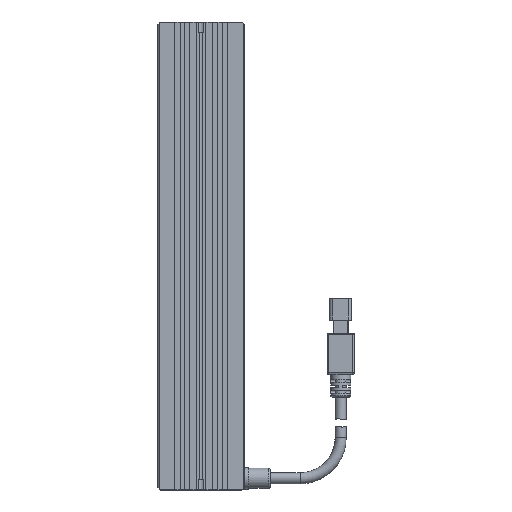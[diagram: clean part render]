
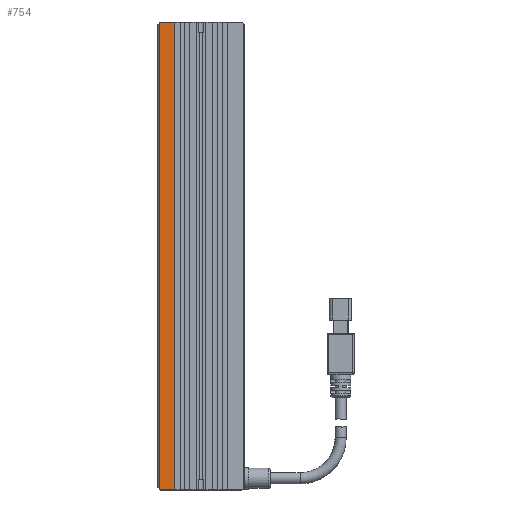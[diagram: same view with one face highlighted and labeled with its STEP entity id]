
A CAD part, top view. The second image highlights one B-rep face of the part: STEP entity #754.
In plain terms, the highlighted planar face has unit normal (0, 0, 1).
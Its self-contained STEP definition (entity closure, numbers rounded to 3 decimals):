
#32 = CARTESIAN_POINT ( 'NONE',  ( -15.5, -86., 12.5 ) ) ;
#154 = VECTOR ( 'NONE', #4585, 1000. ) ;
#505 = EDGE_CURVE ( 'NONE', #15762, #15851, #16109, .T. ) ;
#526 = DIRECTION ( 'NONE',  ( 0., -1., 0. ) ) ;
#754 = ADVANCED_FACE ( 'NONE', ( #6982 ), #1462, .F. ) ;
#786 = ORIENTED_EDGE ( 'NONE', *, *, #1562, .T. ) ;
#836 = EDGE_CURVE ( 'NONE', #17763, #14735, #6008, .T. ) ;
#910 = VECTOR ( 'NONE', #18386, 1000. ) ;
#1006 = CARTESIAN_POINT ( 'NONE',  ( -15., 86.5, 12.5 ) ) ;
#1462 = PLANE ( 'NONE',  #7989 ) ;
#1562 = EDGE_CURVE ( 'NONE', #8847, #15762, #12887, .T. ) ;
#2888 = ORIENTED_EDGE ( 'NONE', *, *, #6314, .F. ) ;
#3573 = ORIENTED_EDGE ( 'NONE', *, *, #13244, .T. ) ;
#3593 = DIRECTION ( 'NONE',  ( 0., -1., 0. ) ) ;
#4198 = LINE ( 'NONE', #12443, #8681 ) ;
#4585 = DIRECTION ( 'NONE',  ( 1., 0., 0. ) ) ;
#4672 = CARTESIAN_POINT ( 'NONE',  ( -9.7, 86.5, 12.5 ) ) ;
#4961 = VECTOR ( 'NONE', #17099, 1000. ) ;
#6008 = LINE ( 'NONE', #9281, #18462 ) ;
#6314 = EDGE_CURVE ( 'NONE', #17763, #6322, #13418, .T. ) ;
#6322 = VERTEX_POINT ( 'NONE', #17163 ) ;
#6354 = CARTESIAN_POINT ( 'NONE',  ( -15.5, 86., 12.5 ) ) ;
#6982 = FACE_OUTER_BOUND ( 'NONE', #14439, .T. ) ;
#7989 = AXIS2_PLACEMENT_3D ( 'NONE', #17785, #14654, #14726 ) ;
#8097 = ORIENTED_EDGE ( 'NONE', *, *, #14529, .F. ) ;
#8681 = VECTOR ( 'NONE', #3593, 1000. ) ;
#8847 = VERTEX_POINT ( 'NONE', #32 ) ;
#9281 = CARTESIAN_POINT ( 'NONE',  ( -15., 86.5, 12.5 ) ) ;
#9644 = CARTESIAN_POINT ( 'NONE',  ( -15.5, 86.5, 12.5 ) ) ;
#9665 = CARTESIAN_POINT ( 'NONE',  ( -9.7, -86.5, 12.5 ) ) ;
#10209 = LINE ( 'NONE', #4672, #14247 ) ;
#10634 = CARTESIAN_POINT ( 'NONE',  ( -16., -85.5, 12.5 ) ) ;
#11036 = CARTESIAN_POINT ( 'NONE',  ( -15., -86.5, 12.5 ) ) ;
#12443 = CARTESIAN_POINT ( 'NONE',  ( -15.5, 86.5, 12.5 ) ) ;
#12887 = LINE ( 'NONE', #10634, #910 ) ;
#13244 = EDGE_CURVE ( 'NONE', #14735, #8847, #4198, .T. ) ;
#13418 = LINE ( 'NONE', #9644, #4961 ) ;
#13579 = CARTESIAN_POINT ( 'NONE',  ( -15.5, -86.5, 12.5 ) ) ;
#14247 = VECTOR ( 'NONE', #526, 1000. ) ;
#14439 = EDGE_LOOP ( 'NONE', ( #2888, #18645, #3573, #786, #17660, #8097 ) ) ;
#14529 = EDGE_CURVE ( 'NONE', #6322, #15851, #10209, .T. ) ;
#14654 = DIRECTION ( 'NONE',  ( 0., 0., -1. ) ) ;
#14726 = DIRECTION ( 'NONE',  ( -1., 0., 0. ) ) ;
#14735 = VERTEX_POINT ( 'NONE', #6354 ) ;
#15762 = VERTEX_POINT ( 'NONE', #11036 ) ;
#15851 = VERTEX_POINT ( 'NONE', #9665 ) ;
#16109 = LINE ( 'NONE', #13579, #154 ) ;
#16537 = DIRECTION ( 'NONE',  ( -0.707, -0.707, 0. ) ) ;
#17099 = DIRECTION ( 'NONE',  ( 1., 0., 0. ) ) ;
#17163 = CARTESIAN_POINT ( 'NONE',  ( -9.7, 86.5, 12.5 ) ) ;
#17660 = ORIENTED_EDGE ( 'NONE', *, *, #505, .T. ) ;
#17763 = VERTEX_POINT ( 'NONE', #1006 ) ;
#17785 = CARTESIAN_POINT ( 'NONE',  ( -15.5, 86.5, 12.5 ) ) ;
#18386 = DIRECTION ( 'NONE',  ( 0.707, -0.707, 0. ) ) ;
#18462 = VECTOR ( 'NONE', #16537, 1000. ) ;
#18645 = ORIENTED_EDGE ( 'NONE', *, *, #836, .T. ) ;
